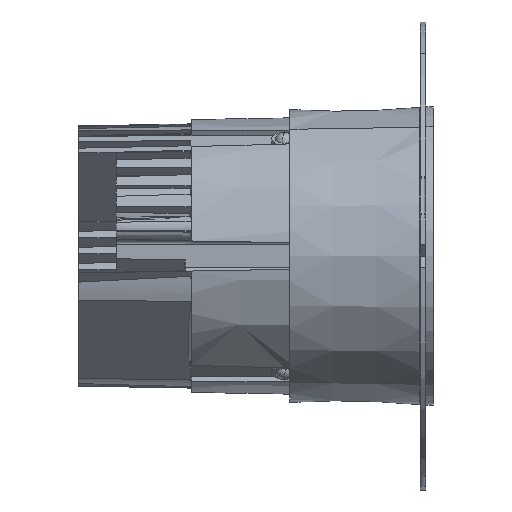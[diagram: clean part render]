
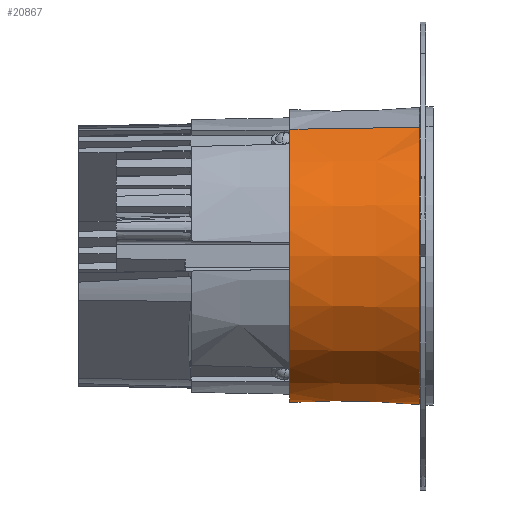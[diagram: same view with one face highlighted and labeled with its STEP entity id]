
A CAD part, left-side view. The second image highlights one B-rep face of the part: STEP entity #20867.
In plain terms, the highlighted conical face has half-angle 1 degrees and reference radius 38.776 mm.
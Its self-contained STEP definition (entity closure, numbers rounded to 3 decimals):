
#571 = LINE ( 'NONE', #30940, #43551 ) ;
#916 = VERTEX_POINT ( 'NONE', #15582 ) ;
#1735 = CARTESIAN_POINT ( 'NONE',  ( 0., 3.697, 0. ) ) ;
#4679 = CARTESIAN_POINT ( 'NONE',  ( 0., 38., 38.776 ) ) ;
#9058 = DIRECTION ( 'NONE',  ( 0., 0., 1. ) ) ;
#14494 = VECTOR ( 'NONE', #43074, 1000. ) ;
#15027 = AXIS2_PLACEMENT_3D ( 'NONE', #1735, #19050, #45497 ) ;
#15582 = CARTESIAN_POINT ( 'NONE',  ( 0., 38., 38.776 ) ) ;
#17172 = ORIENTED_EDGE ( 'NONE', *, *, #22863, .F. ) ;
#17448 = VERTEX_POINT ( 'NONE', #31482 ) ;
#17575 = CARTESIAN_POINT ( 'NONE',  ( 0., 38., 0. ) ) ;
#18386 = ORIENTED_EDGE ( 'NONE', *, *, #50891, .F. ) ;
#19050 = DIRECTION ( 'NONE',  ( 0., 1., 0. ) ) ;
#19162 = EDGE_CURVE ( 'NONE', #17448, #30200, #44117, .T. ) ;
#20633 = AXIS2_PLACEMENT_3D ( 'NONE', #28636, #55358, #37480 ) ;
#20867 = ADVANCED_FACE ( 'NONE', ( #28350 ), #24281, .T. ) ;
#22863 = EDGE_CURVE ( 'NONE', #916, #30200, #43619, .T. ) ;
#24281 = CONICAL_SURFACE ( 'NONE', #20633, 38.776, 0.017 ) ;
#24858 = EDGE_CURVE ( 'NONE', #28279, #17448, #571, .T. ) ;
#28279 = VERTEX_POINT ( 'NONE', #50210 ) ;
#28350 = FACE_OUTER_BOUND ( 'NONE', #55989, .T. ) ;
#28636 = CARTESIAN_POINT ( 'NONE',  ( 0., 38., 0. ) ) ;
#29790 = ORIENTED_EDGE ( 'NONE', *, *, #19162, .T. ) ;
#30200 = VERTEX_POINT ( 'NONE', #38743 ) ;
#30940 = CARTESIAN_POINT ( 'NONE',  ( 0., 38., -38.776 ) ) ;
#31482 = CARTESIAN_POINT ( 'NONE',  ( 0., 3.697, -39.374 ) ) ;
#31504 = DIRECTION ( 'NONE',  ( 0., -1., -0.017 ) ) ;
#32259 = AXIS2_PLACEMENT_3D ( 'NONE', #17575, #52523, #9058 ) ;
#37480 = DIRECTION ( 'NONE',  ( 0., 0., -1. ) ) ;
#38743 = CARTESIAN_POINT ( 'NONE',  ( 0., 3.697, 39.374 ) ) ;
#43074 = DIRECTION ( 'NONE',  ( 0., -1., 0.017 ) ) ;
#43551 = VECTOR ( 'NONE', #31504, 1000. ) ;
#43619 = LINE ( 'NONE', #4679, #14494 ) ;
#44117 = CIRCLE ( 'NONE', #15027, 39.374 ) ;
#45497 = DIRECTION ( 'NONE',  ( 0., 0., -1. ) ) ;
#50210 = CARTESIAN_POINT ( 'NONE',  ( 0., 38., -38.776 ) ) ;
#50891 = EDGE_CURVE ( 'NONE', #28279, #916, #54949, .T. ) ;
#51218 = ORIENTED_EDGE ( 'NONE', *, *, #24858, .T. ) ;
#52523 = DIRECTION ( 'NONE',  ( 0., 1., 0. ) ) ;
#54949 = CIRCLE ( 'NONE', #32259, 38.776 ) ;
#55358 = DIRECTION ( 'NONE',  ( 0., -1., 0. ) ) ;
#55989 = EDGE_LOOP ( 'NONE', ( #17172, #18386, #51218, #29790 ) ) ;
